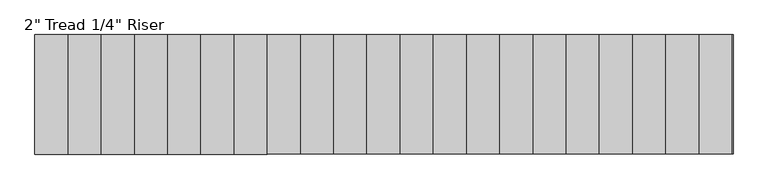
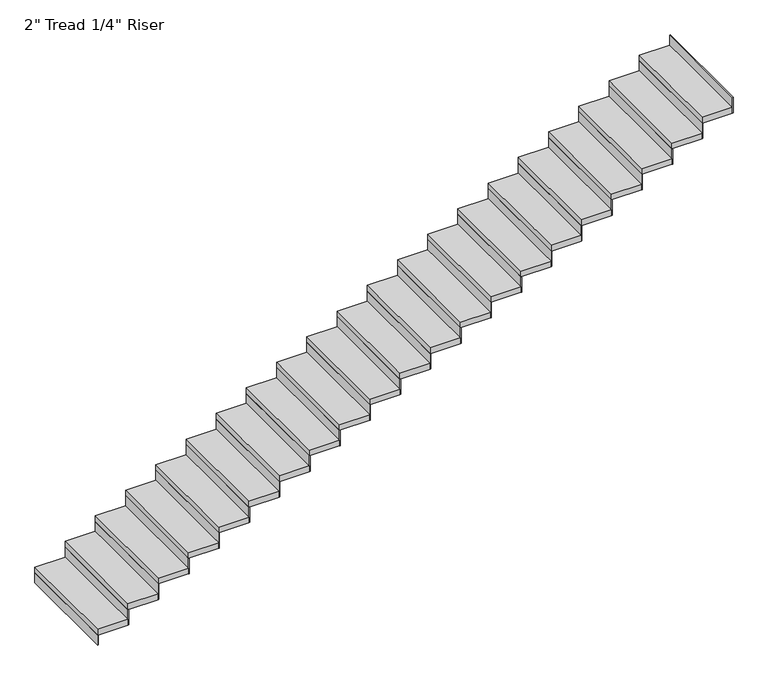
"""IFC4 building model written with IfcOpenShell, lengths in millimetres: stair flight geometry."""

from ifc_helpers import new_model, si_unit, frame, origin, origin_with_axes, place, context, project, spatial, polyline, outline, extrude, source, transform, mapped, element, save


def stair_flight_e897e28c(model_context):
    return source(origin(), model_context, "Body", "SweptSolid", [
        extrude(outline(polyline([(12112.6666841, 34111.1929977), (12106.3166841, 34111.1929977), (12106.3166841, 35025.5929977), (12112.6666841, 35025.5929977), (12112.6666841, 34111.1929977)])), origin_with_axes(), (0.0, 0.0, 1.0), 87.7454545),
        extrude(outline(polyline([(12360.3166841, 35025.5929977), (12360.3166841, 34111.1929977), (12106.3166841, 34111.1929977), (12106.3166841, 35025.5929977), (12360.3166841, 35025.5929977)])), frame((0.0, 0.0, 87.7454545), z_axis=(0.0, 0.0, 1.0), x_axis=(1.0, 0.0, 0.0)), (0.0, 0.0, 1.0), 50.8),
        extrude(outline(polyline([(12366.6666841, 34111.1929977), (12360.3166841, 34111.1929977), (12360.3166841, 35025.5929977), (12366.6666841, 35025.5929977), (12366.6666841, 34111.1929977)])), frame((0.0, 0.0, 87.7454545), z_axis=(0.0, 0.0, 1.0), x_axis=(1.0, 0.0, 0.0)), (0.0, 0.0, 1.0), 138.5454545),
        extrude(outline(polyline([(12614.3166841, 35025.5929977), (12614.3166841, 34111.1929977), (12360.3166841, 34111.1929977), (12360.3166841, 35025.5929977), (12614.3166841, 35025.5929977)])), frame((0.0, 0.0, 226.2909091), z_axis=(0.0, 0.0, 1.0), x_axis=(1.0, 0.0, 0.0)), (0.0, 0.0, 1.0), 50.8),
        extrude(outline(polyline([(12620.6666841, 34111.1929977), (12614.3166841, 34111.1929977), (12614.3166841, 35025.5929977), (12620.6666841, 35025.5929977), (12620.6666841, 34111.1929977)])), frame((0.0, 0.0, 226.2909091), z_axis=(0.0, 0.0, 1.0), x_axis=(1.0, 0.0, 0.0)), (0.0, 0.0, 1.0), 138.5454545),
        extrude(outline(polyline([(12868.3166841, 35025.5929977), (12868.3166841, 34111.1929977), (12614.3166841, 34111.1929977), (12614.3166841, 35025.5929977), (12868.3166841, 35025.5929977)])), frame((0.0, 0.0, 364.8363636), z_axis=(0.0, 0.0, 1.0), x_axis=(1.0, 0.0, 0.0)), (0.0, 0.0, 1.0), 50.8),
        extrude(outline(polyline([(12874.6666841, 34111.1929977), (12868.3166841, 34111.1929977), (12868.3166841, 35025.5929977), (12874.6666841, 35025.5929977), (12874.6666841, 34111.1929977)])), frame((0.0, 0.0, 364.8363636), z_axis=(0.0, 0.0, 1.0), x_axis=(1.0, 0.0, 0.0)), (0.0, 0.0, 1.0), 138.5454545),
        extrude(outline(polyline([(13122.3166841, 35025.5929977), (13122.3166841, 34111.1929977), (12868.3166841, 34111.1929977), (12868.3166841, 35025.5929977), (13122.3166841, 35025.5929977)])), frame((0.0, 0.0, 503.3818182), z_axis=(0.0, 0.0, 1.0), x_axis=(1.0, 0.0, 0.0)), (0.0, 0.0, 1.0), 50.8),
        extrude(outline(polyline([(13128.6666841, 34111.1929977), (13122.3166841, 34111.1929977), (13122.3166841, 35025.5929977), (13128.6666841, 35025.5929977), (13128.6666841, 34111.1929977)])), frame((0.0, 0.0, 503.3818182), z_axis=(0.0, 0.0, 1.0), x_axis=(1.0, 0.0, 0.0)), (0.0, 0.0, 1.0), 138.5454545),
        extrude(outline(polyline([(13376.3166841, 35025.5929977), (13376.3166841, 34111.1929977), (13122.3166841, 34111.1929977), (13122.3166841, 35025.5929977), (13376.3166841, 35025.5929977)])), frame((0.0, 0.0, 641.9272727), z_axis=(0.0, 0.0, 1.0), x_axis=(1.0, 0.0, 0.0)), (0.0, 0.0, 1.0), 50.8),
        extrude(outline(polyline([(13382.6666841, 34111.1929977), (13376.3166841, 34111.1929977), (13376.3166841, 35025.5929977), (13382.6666841, 35025.5929977), (13382.6666841, 34111.1929977)])), frame((0.0, 0.0, 641.9272727), z_axis=(0.0, 0.0, 1.0), x_axis=(1.0, 0.0, 0.0)), (0.0, 0.0, 1.0), 138.5454545),
        extrude(outline(polyline([(13630.3166841, 35025.5929977), (13630.3166841, 34111.1929977), (13376.3166841, 34111.1929977), (13376.3166841, 35025.5929977), (13630.3166841, 35025.5929977)])), frame((0.0, 0.0, 780.4727273), z_axis=(0.0, 0.0, 1.0), x_axis=(1.0, 0.0, 0.0)), (0.0, 0.0, 1.0), 50.8),
        extrude(outline(polyline([(13636.6666841, 34111.1929977), (13630.3166841, 34111.1929977), (13630.3166841, 35025.5929977), (13636.6666841, 35025.5929977), (13636.6666841, 34111.1929977)])), frame((0.0, 0.0, 780.4727273), z_axis=(0.0, 0.0, 1.0), x_axis=(1.0, 0.0, 0.0)), (0.0, 0.0, 1.0), 138.5454545),
        extrude(outline(polyline([(13884.3166841, 35025.5929977), (13884.3166841, 34111.1929977), (13630.3166841, 34111.1929977), (13630.3166841, 35025.5929977), (13884.3166841, 35025.5929977)])), frame((0.0, 0.0, 919.0181818), z_axis=(0.0, 0.0, 1.0), x_axis=(1.0, 0.0, 0.0)), (0.0, 0.0, 1.0), 50.8),
        extrude(outline(polyline([(13890.6666841, 34111.1929977), (13884.3166841, 34111.1929977), (13884.3166841, 35025.5929977), (13890.6666841, 35025.5929977), (13890.6666841, 34111.1929977)])), frame((0.0, 0.0, 919.0181818), z_axis=(0.0, 0.0, 1.0), x_axis=(1.0, 0.0, 0.0)), (0.0, 0.0, 1.0), 138.5454545),
        extrude(outline(polyline([(14138.3166841, 35025.5929977), (14138.3166841, 34111.1929977), (13884.3166841, 34111.1929977), (13884.3166841, 35025.5929977), (14138.3166841, 35025.5929977)])), frame((0.0, 0.0, 1057.5636364), z_axis=(0.0, 0.0, 1.0), x_axis=(1.0, 0.0, 0.0)), (0.0, 0.0, 1.0), 50.8),
        extrude(outline(polyline([(14144.6666841, 34111.1929977), (14138.3166841, 34111.1929977), (14138.3166841, 35025.5929977), (14144.6666841, 35025.5929977), (14144.6666841, 34111.1929977)])), frame((0.0, 0.0, 1057.5636364), z_axis=(0.0, 0.0, 1.0), x_axis=(1.0, 0.0, 0.0)), (0.0, 0.0, 1.0), 138.5454545),
        extrude(outline(polyline([(14392.3166841, 35025.5929977), (14392.3166841, 34111.1929977), (14138.3166841, 34111.1929977), (14138.3166841, 35025.5929977), (14392.3166841, 35025.5929977)])), frame((0.0, 0.0, 1196.1090909), z_axis=(0.0, 0.0, 1.0), x_axis=(1.0, 0.0, 0.0)), (0.0, 0.0, 1.0), 50.8),
        extrude(outline(polyline([(14398.6666841, 34111.1929977), (14392.3166841, 34111.1929977), (14392.3166841, 35025.5929977), (14398.6666841, 35025.5929977), (14398.6666841, 34111.1929977)])), frame((0.0, 0.0, 1196.1090909), z_axis=(0.0, 0.0, 1.0), x_axis=(1.0, 0.0, 0.0)), (0.0, 0.0, 1.0), 138.5454545),
        extrude(outline(polyline([(14646.3166841, 35025.5929977), (14646.3166841, 34111.1929977), (14392.3166841, 34111.1929977), (14392.3166841, 35025.5929977), (14646.3166841, 35025.5929977)])), frame((0.0, 0.0, 1334.6545455), z_axis=(0.0, 0.0, 1.0), x_axis=(1.0, 0.0, 0.0)), (0.0, 0.0, 1.0), 50.8),
        extrude(outline(polyline([(14652.6666841, 34111.1929977), (14646.3166841, 34111.1929977), (14646.3166841, 35025.5929977), (14652.6666841, 35025.5929977), (14652.6666841, 34111.1929977)])), frame((0.0, 0.0, 1334.6545455), z_axis=(0.0, 0.0, 1.0), x_axis=(1.0, 0.0, 0.0)), (0.0, 0.0, 1.0), 138.5454545),
        extrude(outline(polyline([(14900.3166841, 35025.5929977), (14900.3166841, 34111.1929977), (14646.3166841, 34111.1929977), (14646.3166841, 35025.5929977), (14900.3166841, 35025.5929977)])), frame((0.0, 0.0, 1473.2), z_axis=(0.0, 0.0, 1.0), x_axis=(1.0, 0.0, 0.0)), (0.0, 0.0, 1.0), 50.8),
        extrude(outline(polyline([(14906.6666841, 34111.1929977), (14900.3166841, 34111.1929977), (14900.3166841, 35025.5929977), (14906.6666841, 35025.5929977), (14906.6666841, 34111.1929977)])), frame((0.0, 0.0, 1473.2), z_axis=(0.0, 0.0, 1.0), x_axis=(1.0, 0.0, 0.0)), (0.0, 0.0, 1.0), 138.5454545),
        extrude(outline(polyline([(15154.3166841, 35025.5929977), (15154.3166841, 34111.1929977), (14900.3166841, 34111.1929977), (14900.3166841, 35025.5929977), (15154.3166841, 35025.5929977)])), frame((0.0, 0.0, 1611.7454545), z_axis=(0.0, 0.0, 1.0), x_axis=(1.0, 0.0, 0.0)), (0.0, 0.0, 1.0), 50.8),
        extrude(outline(polyline([(15160.6666841, 34111.1929977), (15154.3166841, 34111.1929977), (15154.3166841, 35025.5929977), (15160.6666841, 35025.5929977), (15160.6666841, 34111.1929977)])), frame((0.0, 0.0, 1611.7454545), z_axis=(0.0, 0.0, 1.0), x_axis=(1.0, 0.0, 0.0)), (0.0, 0.0, 1.0), 138.5454545),
        extrude(outline(polyline([(15408.3166841, 35025.5929977), (15408.3166841, 34111.1929977), (15154.3166841, 34111.1929977), (15154.3166841, 35025.5929977), (15408.3166841, 35025.5929977)])), frame((0.0, 0.0, 1750.2909091), z_axis=(0.0, 0.0, 1.0), x_axis=(1.0, 0.0, 0.0)), (0.0, 0.0, 1.0), 50.8),
        extrude(outline(polyline([(15414.6666841, 34111.1929977), (15408.3166841, 34111.1929977), (15408.3166841, 35025.5929977), (15414.6666841, 35025.5929977), (15414.6666841, 34111.1929977)])), frame((0.0, 0.0, 1750.2909091), z_axis=(0.0, 0.0, 1.0), x_axis=(1.0, 0.0, 0.0)), (0.0, 0.0, 1.0), 138.5454545),
        extrude(outline(polyline([(15662.3166841, 35025.5929977), (15662.3166841, 34111.1929977), (15408.3166841, 34111.1929977), (15408.3166841, 35025.5929977), (15662.3166841, 35025.5929977)])), frame((0.0, 0.0, 1888.8363636), z_axis=(0.0, 0.0, 1.0), x_axis=(1.0, 0.0, 0.0)), (0.0, 0.0, 1.0), 50.8),
        extrude(outline(polyline([(15668.6666841, 34111.1929977), (15662.3166841, 34111.1929977), (15662.3166841, 35025.5929977), (15668.6666841, 35025.5929977), (15668.6666841, 34111.1929977)])), frame((0.0, 0.0, 1888.8363636), z_axis=(0.0, 0.0, 1.0), x_axis=(1.0, 0.0, 0.0)), (0.0, 0.0, 1.0), 138.5454545),
        extrude(outline(polyline([(15916.3166841, 35025.5929977), (15916.3166841, 34111.1929977), (15662.3166841, 34111.1929977), (15662.3166841, 35025.5929977), (15916.3166841, 35025.5929977)])), frame((0.0, 0.0, 2027.3818182), z_axis=(0.0, 0.0, 1.0), x_axis=(1.0, 0.0, 0.0)), (0.0, 0.0, 1.0), 50.8),
        extrude(outline(polyline([(15922.6666841, 34111.1929977), (15916.3166841, 34111.1929977), (15916.3166841, 35025.5929977), (15922.6666841, 35025.5929977), (15922.6666841, 34111.1929977)])), frame((0.0, 0.0, 2027.3818182), z_axis=(0.0, 0.0, 1.0), x_axis=(1.0, 0.0, 0.0)), (0.0, 0.0, 1.0), 138.5454545),
        extrude(outline(polyline([(16170.3166841, 35025.5929977), (16170.3166841, 34111.1929977), (15916.3166841, 34111.1929977), (15916.3166841, 35025.5929977), (16170.3166841, 35025.5929977)])), frame((0.0, 0.0, 2165.9272727), z_axis=(0.0, 0.0, 1.0), x_axis=(1.0, 0.0, 0.0)), (0.0, 0.0, 1.0), 50.8),
        extrude(outline(polyline([(16176.6666841, 34111.1929977), (16170.3166841, 34111.1929977), (16170.3166841, 35025.5929977), (16176.6666841, 35025.5929977), (16176.6666841, 34111.1929977)])), frame((0.0, 0.0, 2165.9272727), z_axis=(0.0, 0.0, 1.0), x_axis=(1.0, 0.0, 0.0)), (0.0, 0.0, 1.0), 138.5454545),
        extrude(outline(polyline([(16424.3166841, 35025.5929977), (16424.3166841, 34111.1929977), (16170.3166841, 34111.1929977), (16170.3166841, 35025.5929977), (16424.3166841, 35025.5929977)])), frame((0.0, 0.0, 2304.4727273), z_axis=(0.0, 0.0, 1.0), x_axis=(1.0, 0.0, 0.0)), (0.0, 0.0, 1.0), 50.8),
        extrude(outline(polyline([(16430.6666841, 34111.1929977), (16424.3166841, 34111.1929977), (16424.3166841, 35025.5929977), (16430.6666841, 35025.5929977), (16430.6666841, 34111.1929977)])), frame((0.0, 0.0, 2304.4727273), z_axis=(0.0, 0.0, 1.0), x_axis=(1.0, 0.0, 0.0)), (0.0, 0.0, 1.0), 138.5454545),
        extrude(outline(polyline([(16678.3166841, 35025.5929977), (16678.3166841, 34111.1929977), (16424.3166841, 34111.1929977), (16424.3166841, 35025.5929977), (16678.3166841, 35025.5929977)])), frame((0.0, 0.0, 2443.0181818), z_axis=(0.0, 0.0, 1.0), x_axis=(1.0, 0.0, 0.0)), (0.0, 0.0, 1.0), 50.8),
        extrude(outline(polyline([(16684.6666841, 34111.1929977), (16678.3166841, 34111.1929977), (16678.3166841, 35025.5929977), (16684.6666841, 35025.5929977), (16684.6666841, 34111.1929977)])), frame((0.0, 0.0, 2443.0181818), z_axis=(0.0, 0.0, 1.0), x_axis=(1.0, 0.0, 0.0)), (0.0, 0.0, 1.0), 138.5454545),
        extrude(outline(polyline([(16932.3166841, 35025.5929977), (16932.3166841, 34111.1929977), (16678.3166841, 34111.1929977), (16678.3166841, 35025.5929977), (16932.3166841, 35025.5929977)])), frame((0.0, 0.0, 2581.5636364), z_axis=(0.0, 0.0, 1.0), x_axis=(1.0, 0.0, 0.0)), (0.0, 0.0, 1.0), 50.8),
        extrude(outline(polyline([(16938.6666841, 34111.1929977), (16932.3166841, 34111.1929977), (16932.3166841, 35025.5929977), (16938.6666841, 35025.5929977), (16938.6666841, 34111.1929977)])), frame((0.0, 0.0, 2581.5636364), z_axis=(0.0, 0.0, 1.0), x_axis=(1.0, 0.0, 0.0)), (0.0, 0.0, 1.0), 138.5454545),
        extrude(outline(polyline([(17186.3166841, 35025.5929977), (17186.3166841, 34111.1929977), (16932.3166841, 34111.1929977), (16932.3166841, 35025.5929977), (17186.3166841, 35025.5929977)])), frame((0.0, 0.0, 2720.1090909), z_axis=(0.0, 0.0, 1.0), x_axis=(1.0, 0.0, 0.0)), (0.0, 0.0, 1.0), 50.8),
        extrude(outline(polyline([(17192.6666841, 34111.1929977), (17186.3166841, 34111.1929977), (17186.3166841, 35025.5929977), (17192.6666841, 35025.5929977), (17192.6666841, 34111.1929977)])), frame((0.0, 0.0, 2720.1090909), z_axis=(0.0, 0.0, 1.0), x_axis=(1.0, 0.0, 0.0)), (0.0, 0.0, 1.0), 138.5454545),
        extrude(outline(polyline([(17446.6666841, 34111.1929977), (17440.3166841, 34111.1929977), (17440.3166841, 35025.5929977), (17446.6666841, 35025.5929977), (17446.6666841, 34111.1929977)])), frame((0.0, 0.0, 2858.6545455), z_axis=(0.0, 0.0, 1.0), x_axis=(1.0, 0.0, 0.0)), (0.0, 0.0, 1.0), 138.5454545),
        extrude(outline(polyline([(17440.3166841, 35025.5929977), (17440.3166841, 34111.1929977), (17186.3166841, 34111.1929977), (17186.3166841, 35025.5929977), (17440.3166841, 35025.5929977)])), frame((0.0, 0.0, 2858.6545455), z_axis=(0.0, 0.0, 1.0), x_axis=(1.0, 0.0, 0.0)), (0.0, 0.0, 1.0), 50.8),
    ])


if __name__ == "__main__":
    model = new_model("IFC4")
    model_context = context("Model", 3, world=origin())
    ifc_project = project(units=[si_unit("LENGTHUNIT", "METRE", prefix="MILLI")], contexts=[model_context])
    site = spatial("IfcSite", under=ifc_project)
    building = spatial("IfcBuilding", under=site)
    placement = place(None, origin())
    stair_flight_shape = stair_flight_e897e28c(model_context)
    element("IfcStairFlight", 1, ObjectType="2\" Tread 1/4\" Riser", at=placement, inside=building, context=model_context, shape_type="MappedRepresentation", body=[
        mapped(stair_flight_shape, transform((0.0, 0.0, 0.0), x_axis=(1.0, 0.0, 0.0), y_axis=(0.0, 1.0, 0.0), z_axis=(0.0, 0.0, 1.0))),
    ])
    save(model, "model.ifc")
